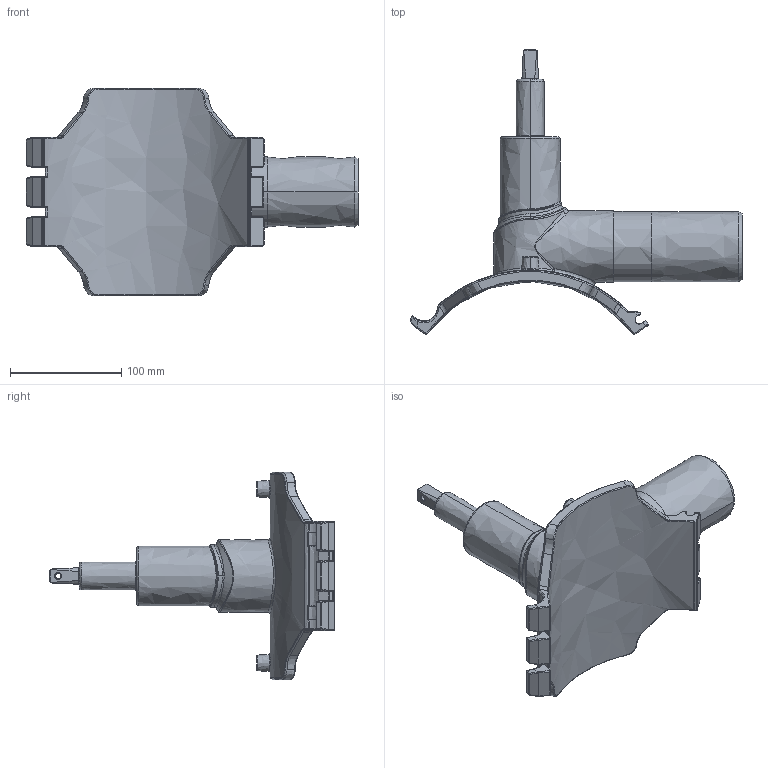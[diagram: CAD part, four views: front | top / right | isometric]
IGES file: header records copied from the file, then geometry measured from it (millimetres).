
Start section:  PTC IGES file: dav2_d225_63_01.igs
Global section: file name: dav2_d225_63_01.igs; native system: Creo Parametric by PTC Inc.; preprocessor: 2019030; author: demmerls; organization: Unknown; date: 20201126.143849; units: millimetre
Bounding box: 297.83 x 256.06 x 186 mm (x, y, z)
Surface area: 154617.8 mm2 (no closed solid volume)
Topology: 0 solids, 0 shells, 575 faces, 2810 edges, 2804 vertices
Faces by surface type: bspline 575
